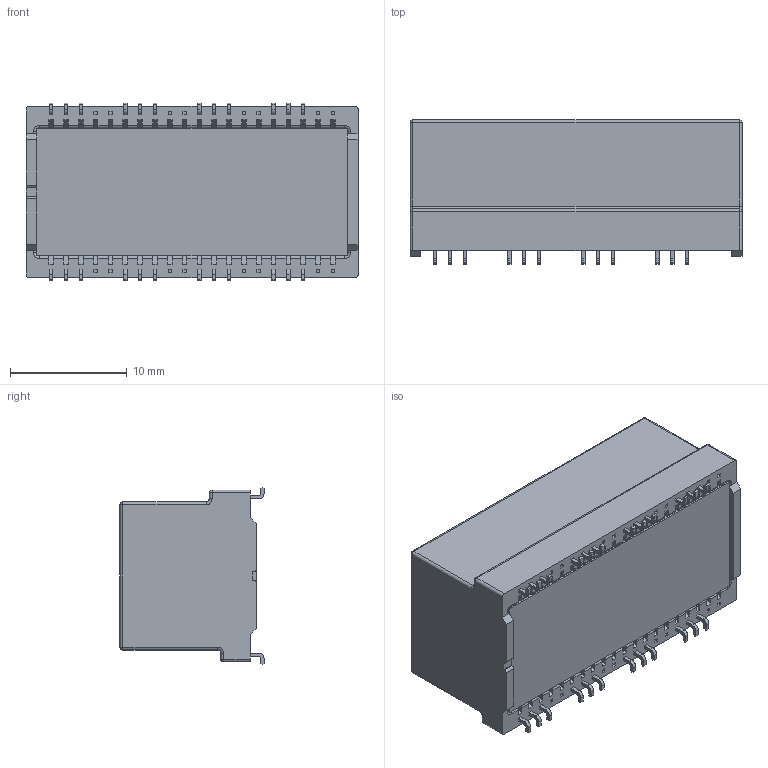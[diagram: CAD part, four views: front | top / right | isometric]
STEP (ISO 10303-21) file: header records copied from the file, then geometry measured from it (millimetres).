
FILE_DESCRIPTION (( 'STEP AP214' ), '1' );
FILE_NAME ('HXU6200NL_3D.STEP', '2018-04-26T07:19:20', ( '' ), ( '' ), 'SwSTEP 2.0', 'SolidWorks 2015', '' );
FILE_SCHEMA (( 'AUTOMOTIVE_DESIGN' ));
Length unit declared in the file: millimetre
Products named in the file (1): HXU6200NL_3D
Bounding box: 28.45 x 12.34 x 15.24 mm (x, y, z)
Volume: 4214 mm3; surface area: 2010.4 mm2
Topology: 25 solids, 25 shells, 705 faces, 1806 edges, 1184 vertices
Faces by surface type: plane 571, cylinder 118, torus 8, sphere 8
Entity records: 24208 total; most frequent: CARTESIAN_POINT 3712, ORIENTED_EDGE 3596, DIRECTION 3446, EDGE_CURVE 1798, VECTOR 1546, LINE 1546, VERTEX_POINT 1184, AXIS2_PLACEMENT_3D 950
